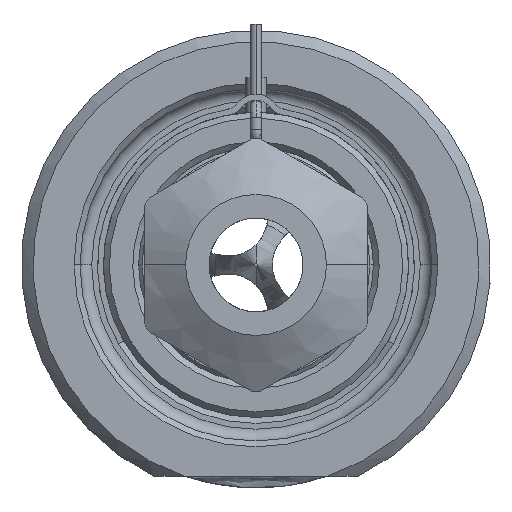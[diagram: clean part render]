
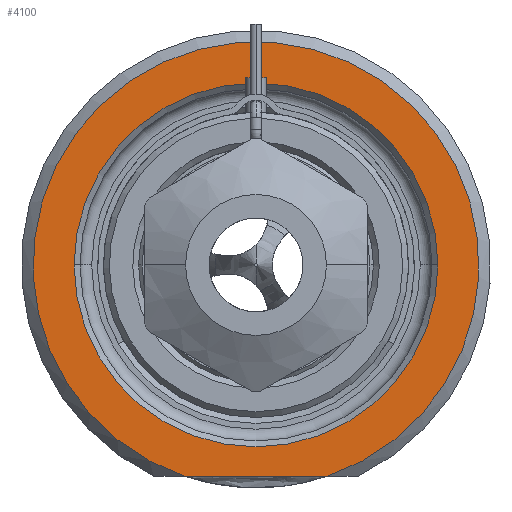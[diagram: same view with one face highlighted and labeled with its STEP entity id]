
A CAD part, front view. The second image highlights one B-rep face of the part: STEP entity #4100.
In plain terms, the highlighted planar face has unit normal (0, -1, 0).
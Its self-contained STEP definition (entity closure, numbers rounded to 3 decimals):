
#1=DIRECTION('',(1.,0.,0.));
#2=VECTOR('',#1,12.166);
#3=CARTESIAN_POINT('',(-6.083,0.,-18.));
#4=LINE('',#3,#2);
#5=CARTESIAN_POINT('',(0.,0.,0.));
#6=DIRECTION('',(0.,1.,0.));
#7=DIRECTION('',(-1.,0.,0.));
#8=AXIS2_PLACEMENT_3D('',#5,#6,#7);
#10=CARTESIAN_POINT('',(0.,0.,0.));
#11=DIRECTION('',(0.,1.,0.));
#12=DIRECTION('',(1.,0.,0.));
#13=AXIS2_PLACEMENT_3D('',#10,#11,#12);
#264=CARTESIAN_POINT('',(0.,0.,0.));
#265=DIRECTION('',(0.,-1.,0.));
#266=DIRECTION('',(0.32,0.,-0.947));
#267=AXIS2_PLACEMENT_3D('',#264,#265,#266);
#3466=CARTESIAN_POINT('',(-15.5,0.,0.));
#3467=CARTESIAN_POINT('',(15.5,0.,0.));
#3468=VERTEX_POINT('',#3466);
#3469=VERTEX_POINT('',#3467);
#3524=CARTESIAN_POINT('',(-6.083,0.,-18.));
#3525=CARTESIAN_POINT('',(6.083,0.,-18.));
#3526=VERTEX_POINT('',#3524);
#3527=VERTEX_POINT('',#3525);
#4083=CARTESIAN_POINT('',(0.,0.,0.));
#4084=DIRECTION('',(0.,-1.,0.));
#4085=DIRECTION('',(1.,0.,0.));
#4086=AXIS2_PLACEMENT_3D('',#4083,#4084,#4085);
#4087=PLANE('',#4086);
#4089=ORIENTED_EDGE('',*,*,#4088,.F.);
#4091=ORIENTED_EDGE('',*,*,#4090,.F.);
#4092=EDGE_LOOP('',(#4089,#4091));
#4093=FACE_OUTER_BOUND('',#4092,.F.);
#4095=ORIENTED_EDGE('',*,*,#4094,.F.);
#4097=ORIENTED_EDGE('',*,*,#4096,.F.);
#4098=EDGE_LOOP('',(#4095,#4097));
#4099=FACE_BOUND('',#4098,.F.);
#4100=ADVANCED_FACE('',(#4093,#4099),#4087,.T.);
#9=CIRCLE('',#8,15.5);
#14=CIRCLE('',#13,15.5);
#268=CIRCLE('',#267,19.);
#4088=EDGE_CURVE('',#3526,#3527,#4,.T.);
#4090=EDGE_CURVE('',#3527,#3526,#268,.T.);
#4094=EDGE_CURVE('',#3468,#3469,#9,.T.);
#4096=EDGE_CURVE('',#3469,#3468,#14,.T.);
